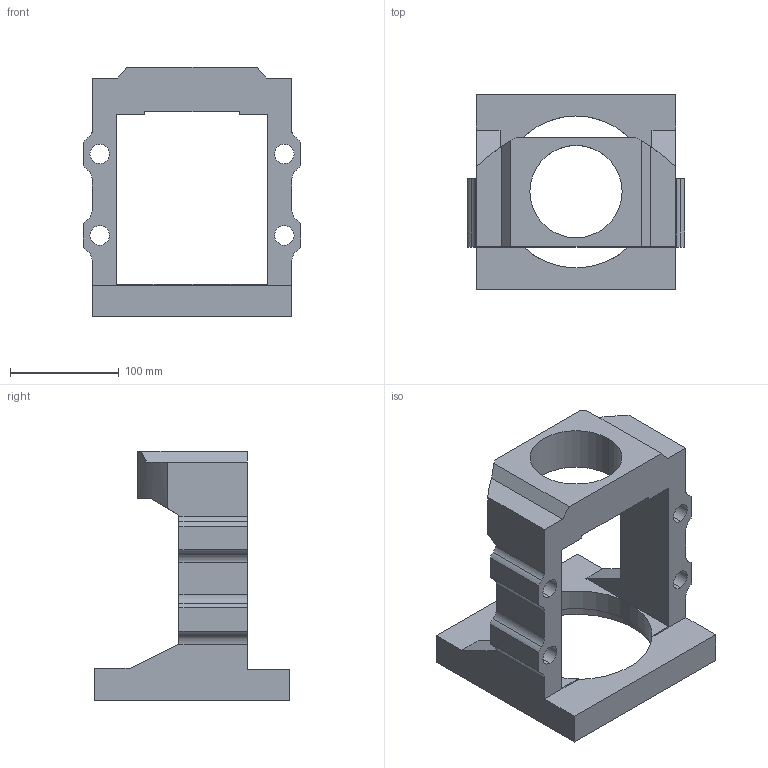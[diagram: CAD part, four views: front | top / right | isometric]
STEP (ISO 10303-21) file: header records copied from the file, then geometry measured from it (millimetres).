
FILE_DESCRIPTION (( 'STEP AP203' ), '1' );
FILE_NAME ('MBB30-J.STEP', '2021-10-01T06:11:49', ( '' ), ( '' ), 'SwSTEP 2.0', 'SolidWorks 2018', '' );
FILE_SCHEMA (( 'CONFIG_CONTROL_DESIGN' ));
Length unit declared in the file: millimetre
Products named in the file (1): MBB30-J
Bounding box: 200 x 180 x 230 mm (x, y, z)
Volume: 1405529.5 mm3; surface area: 198877.6 mm2
Topology: 1 solids, 1 shells, 133 faces, 355 edges, 216 vertices
Faces by surface type: cylinder 63, plane 42, cone 28
Entity records: 4116 total; most frequent: DIRECTION 737, CARTESIAN_POINT 697, ORIENTED_EDGE 670, EDGE_CURVE 335, AXIS2_PLACEMENT_3D 272, VERTEX_POINT 216, VECTOR 193, LINE 193
